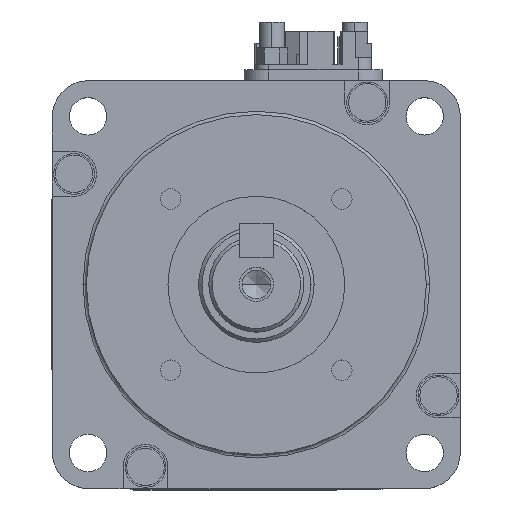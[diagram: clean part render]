
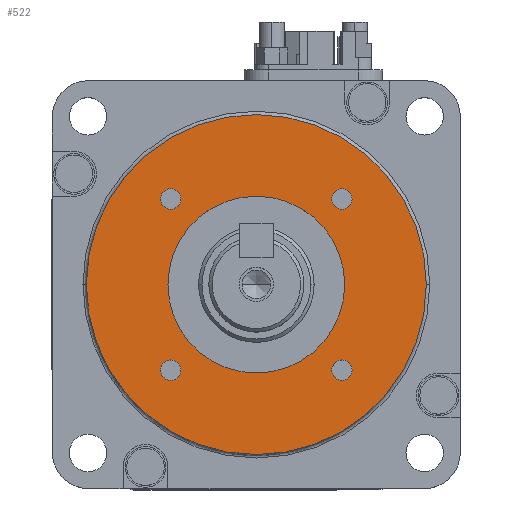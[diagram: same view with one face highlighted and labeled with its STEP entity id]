
A CAD part, top view. The second image highlights one B-rep face of the part: STEP entity #522.
In plain terms, the highlighted planar face has unit normal (0, 0, 1).
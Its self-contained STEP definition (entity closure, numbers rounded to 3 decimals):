
#522=ADVANCED_FACE('',(#4804,#4805,#4806,#4807,#4808,#4809),#4803,.T.);
#4803=PLANE('',#8161);
#4804=FACE_OUTER_BOUND('',#8162,.T.);
#4805=FACE_BOUND('',#8163,.T.);
#4806=FACE_BOUND('',#8164,.T.);
#4807=FACE_BOUND('',#8165,.T.);
#4808=FACE_BOUND('',#8166,.T.);
#4809=FACE_BOUND('',#8167,.T.);
#8158=CARTESIAN_POINT('',(-57.5,-51.962,3.));
#8159=DIRECTION('',(0.,0.,1.));
#8160=DIRECTION('',(1.,0.,0.));
#8161=AXIS2_PLACEMENT_3D('',#8158,#8159,#8160);
#8162=EDGE_LOOP('',(#11146,#11147));
#8163=EDGE_LOOP('',(#11148,#11149));
#8164=EDGE_LOOP('',(#11150,#11151));
#8165=EDGE_LOOP('',(#11152,#11153));
#8166=EDGE_LOOP('',(#11154,#11155));
#8167=EDGE_LOOP('',(#11156,#11157));
#11146=ORIENTED_EDGE('',*,*,#12947,.T.);
#11147=ORIENTED_EDGE('',*,*,#12948,.T.);
#11148=ORIENTED_EDGE('',*,*,#12949,.F.);
#11149=ORIENTED_EDGE('',*,*,#12950,.F.);
#11150=ORIENTED_EDGE('',*,*,#12951,.F.);
#11151=ORIENTED_EDGE('',*,*,#12952,.F.);
#11152=ORIENTED_EDGE('',*,*,#12953,.F.);
#11153=ORIENTED_EDGE('',*,*,#12954,.F.);
#11154=ORIENTED_EDGE('',*,*,#12955,.F.);
#11155=ORIENTED_EDGE('',*,*,#12956,.F.);
#11156=ORIENTED_EDGE('',*,*,#12957,.F.);
#11157=ORIENTED_EDGE('',*,*,#12958,.F.);
#12947=EDGE_CURVE('',#21600,#21601,#21602,.T.);
#12948=EDGE_CURVE('',#21601,#21600,#21608,.T.);
#12949=EDGE_CURVE('',#21614,#21615,#21616,.T.);
#12950=EDGE_CURVE('',#21615,#21614,#21622,.T.);
#12951=EDGE_CURVE('',#21628,#21629,#21630,.T.);
#12952=EDGE_CURVE('',#21629,#21628,#21636,.T.);
#12953=EDGE_CURVE('',#21642,#21643,#21644,.T.);
#12954=EDGE_CURVE('',#21643,#21642,#21650,.T.);
#12955=EDGE_CURVE('',#21656,#21657,#21658,.T.);
#12956=EDGE_CURVE('',#21657,#21656,#21664,.T.);
#12957=EDGE_CURVE('',#21670,#21671,#21672,.T.);
#12958=EDGE_CURVE('',#21671,#21670,#21678,.T.);
#21600=VERTEX_POINT('',#27611);
#21601=VERTEX_POINT('',#27612);
#21602=CIRCLE('',#27616,25.);
#21608=CIRCLE('',#27620,25.);
#21614=VERTEX_POINT('',#27621);
#21615=VERTEX_POINT('',#27622);
#21616=CIRCLE('',#27626,1.5);
#21622=CIRCLE('',#27630,1.5);
#21628=VERTEX_POINT('',#27631);
#21629=VERTEX_POINT('',#27632);
#21630=CIRCLE('',#27636,1.5);
#21636=CIRCLE('',#27640,1.5);
#21642=VERTEX_POINT('',#27641);
#21643=VERTEX_POINT('',#27642);
#21644=CIRCLE('',#27646,1.5);
#21650=CIRCLE('',#27650,1.5);
#21656=VERTEX_POINT('',#27651);
#21657=VERTEX_POINT('',#27652);
#21658=CIRCLE('',#27656,1.5);
#21664=CIRCLE('',#27660,1.5);
#21670=VERTEX_POINT('',#27661);
#21671=VERTEX_POINT('',#27662);
#21672=CIRCLE('',#27666,13.);
#21678=CIRCLE('',#27670,13.);
#27611=CARTESIAN_POINT('',(25.,0.,3.));
#27612=CARTESIAN_POINT('',(-25.,0.,3.));
#27613=CARTESIAN_POINT('',(0.,0.,3.));
#27614=DIRECTION('',(0.,0.,1.));
#27615=DIRECTION('',(1.,0.,0.));
#27616=AXIS2_PLACEMENT_3D('',#27613,#27614,#27615);
#27617=CARTESIAN_POINT('',(0.,0.,3.));
#27618=DIRECTION('',(0.,0.,1.));
#27619=DIRECTION('',(1.,0.,0.));
#27620=AXIS2_PLACEMENT_3D('',#27617,#27618,#27619);
#27621=CARTESIAN_POINT('',(14.087,-12.587,3.));
#27622=CARTESIAN_POINT('',(11.087,-12.587,3.));
#27623=CARTESIAN_POINT('',(12.587,-12.587,3.));
#27624=DIRECTION('',(0.,0.,1.));
#27625=DIRECTION('',(-1.,0.,0.));
#27626=AXIS2_PLACEMENT_3D('',#27623,#27624,#27625);
#27627=CARTESIAN_POINT('',(12.587,-12.587,3.));
#27628=DIRECTION('',(0.,0.,1.));
#27629=DIRECTION('',(-1.,0.,0.));
#27630=AXIS2_PLACEMENT_3D('',#27627,#27628,#27629);
#27631=CARTESIAN_POINT('',(-11.087,-12.587,3.));
#27632=CARTESIAN_POINT('',(-14.087,-12.587,3.));
#27633=CARTESIAN_POINT('',(-12.587,-12.587,3.));
#27634=DIRECTION('',(0.,0.,1.));
#27635=DIRECTION('',(-1.,0.,0.));
#27636=AXIS2_PLACEMENT_3D('',#27633,#27634,#27635);
#27637=CARTESIAN_POINT('',(-12.587,-12.587,3.));
#27638=DIRECTION('',(0.,0.,1.));
#27639=DIRECTION('',(-1.,0.,0.));
#27640=AXIS2_PLACEMENT_3D('',#27637,#27638,#27639);
#27641=CARTESIAN_POINT('',(-11.087,12.587,3.));
#27642=CARTESIAN_POINT('',(-14.087,12.587,3.));
#27643=CARTESIAN_POINT('',(-12.587,12.587,3.));
#27644=DIRECTION('',(0.,0.,1.));
#27645=DIRECTION('',(-1.,0.,0.));
#27646=AXIS2_PLACEMENT_3D('',#27643,#27644,#27645);
#27647=CARTESIAN_POINT('',(-12.587,12.587,3.));
#27648=DIRECTION('',(0.,0.,1.));
#27649=DIRECTION('',(-1.,0.,0.));
#27650=AXIS2_PLACEMENT_3D('',#27647,#27648,#27649);
#27651=CARTESIAN_POINT('',(14.087,12.587,3.));
#27652=CARTESIAN_POINT('',(11.087,12.587,3.));
#27653=CARTESIAN_POINT('',(12.587,12.587,3.));
#27654=DIRECTION('',(0.,0.,1.));
#27655=DIRECTION('',(-1.,0.,0.));
#27656=AXIS2_PLACEMENT_3D('',#27653,#27654,#27655);
#27657=CARTESIAN_POINT('',(12.587,12.587,3.));
#27658=DIRECTION('',(0.,0.,1.));
#27659=DIRECTION('',(-1.,0.,0.));
#27660=AXIS2_PLACEMENT_3D('',#27657,#27658,#27659);
#27661=CARTESIAN_POINT('',(13.,0.,3.));
#27662=CARTESIAN_POINT('',(-13.,0.,3.));
#27663=CARTESIAN_POINT('',(0.,0.,3.));
#27664=DIRECTION('',(0.,0.,1.));
#27665=DIRECTION('',(-1.,0.,0.));
#27666=AXIS2_PLACEMENT_3D('',#27663,#27664,#27665);
#27667=CARTESIAN_POINT('',(0.,0.,3.));
#27668=DIRECTION('',(0.,0.,1.));
#27669=DIRECTION('',(-1.,0.,0.));
#27670=AXIS2_PLACEMENT_3D('',#27667,#27668,#27669);
